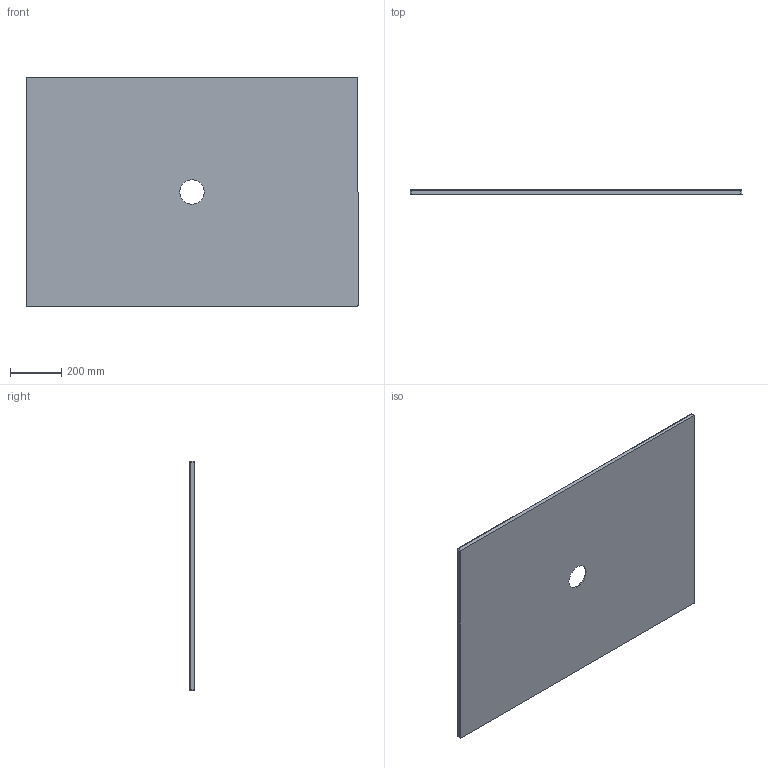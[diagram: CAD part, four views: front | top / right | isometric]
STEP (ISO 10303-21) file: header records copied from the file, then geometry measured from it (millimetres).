
FILE_DESCRIPTION (( 'STEP AP203' ), '1' );
FILE_NAME ('SDPD13009020.STEP', '2025-05-05T08:26:11', ( '' ), ( '' ), 'SwSTEP 2.0', 'SolidWorks 2024', '' );
FILE_SCHEMA (( 'CONFIG_CONTROL_DESIGN' ));
Length unit declared in the file: millimetre
Products named in the file (1): SDPD13009020
Bounding box: 1300 x 20 x 900 mm (x, y, z)
Volume: 19511369 mm3; surface area: 2394719 mm2
Topology: 1 solids, 1 shells, 26 faces, 62 edges, 40 vertices
Faces by surface type: cylinder 9, plane 8, sphere 4, bspline 2, torus 2, cone 1
Full cylindrical faces by diameter (mm): 95 x1
Entity records: 2449 total; most frequent: CARTESIAN_POINT 1833, DIRECTION 108, ORIENTED_EDGE 104, EDGE_CURVE 52, AXIS2_PLACEMENT_3D 44, EDGE_LOOP 36, VERTEX_POINT 36, FACE_OUTER_BOUND 31
